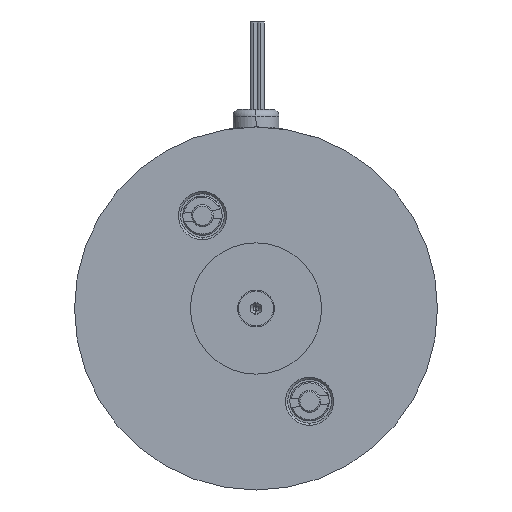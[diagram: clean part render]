
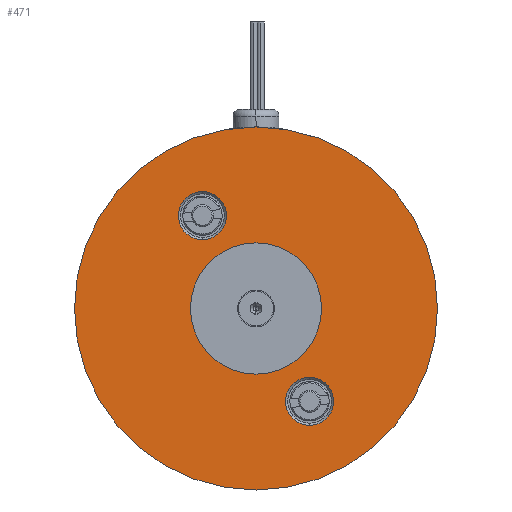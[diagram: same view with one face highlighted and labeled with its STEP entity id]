
A CAD part, left-side view. The second image highlights one B-rep face of the part: STEP entity #471.
In plain terms, the highlighted planar face has unit normal (-1, 0, 0).
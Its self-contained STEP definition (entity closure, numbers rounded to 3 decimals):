
#7 = EDGE_CURVE ( 'NONE', #14, #16, #1207, .T. ) ;
#14 = VERTEX_POINT ( 'NONE', #1256 ) ;
#16 = VERTEX_POINT ( 'NONE', #1255 ) ;
#23 = VERTEX_POINT ( 'NONE', #1246 ) ;
#25 = EDGE_CURVE ( 'NONE', #23, #28, #1288, .T. ) ;
#28 = VERTEX_POINT ( 'NONE', #1279 ) ;
#455 = ORIENTED_EDGE ( 'NONE', *, *, #7, .F. ) ;
#456 = ORIENTED_EDGE ( 'NONE', *, *, #457, .F. ) ;
#457 = EDGE_CURVE ( 'NONE', #16, #14, #2517, .T. ) ;
#458 = EDGE_LOOP ( 'NONE', ( #459, #512 ) ) ;
#459 = ORIENTED_EDGE ( 'NONE', *, *, #25, .T. ) ;
#470 = EDGE_CURVE ( 'NONE', #28, #23, #2574, .T. ) ;
#471 = ADVANCED_FACE ( 'NONE', ( #2570, #2569, #2568, #2567 ), #2622, .F. ) ;
#472 = EDGE_LOOP ( 'NONE', ( #473, #524 ) ) ;
#473 = ORIENTED_EDGE ( 'NONE', *, *, #1098, .T. ) ;
#512 = ORIENTED_EDGE ( 'NONE', *, *, #470, .T. ) ;
#524 = ORIENTED_EDGE ( 'NONE', *, *, #525, .T. ) ;
#525 = EDGE_CURVE ( 'NONE', #1103, #1101, #2774, .T. ) ;
#526 = EDGE_LOOP ( 'NONE', ( #527, #528 ) ) ;
#527 = ORIENTED_EDGE ( 'NONE', *, *, #1046, .T. ) ;
#528 = ORIENTED_EDGE ( 'NONE', *, *, #529, .T. ) ;
#529 = EDGE_CURVE ( 'NONE', #1048, #1047, #2768, .T. ) ;
#530 = EDGE_LOOP ( 'NONE', ( #455, #456 ) ) ;
#1046 = EDGE_CURVE ( 'NONE', #1047, #1048, #4447, .T. ) ;
#1047 = VERTEX_POINT ( 'NONE', #4442 ) ;
#1048 = VERTEX_POINT ( 'NONE', #4441 ) ;
#1098 = EDGE_CURVE ( 'NONE', #1101, #1103, #4562, .T. ) ;
#1101 = VERTEX_POINT ( 'NONE', #4557 ) ;
#1103 = VERTEX_POINT ( 'NONE', #4552 ) ;
#1203 = DIRECTION ( 'NONE',  ( 0., 0., 1. ) ) ;
#1204 = DIRECTION ( 'NONE',  ( -1., 0., 0. ) ) ;
#1205 = CARTESIAN_POINT ( 'NONE',  ( -112., 0., 0. ) ) ;
#1206 = AXIS2_PLACEMENT_3D ( 'NONE', #1205, #1204, #1203 ) ;
#1207 = CIRCLE ( 'NONE', #1206, 15. ) ;
#1246 = CARTESIAN_POINT ( 'NONE',  ( -112., 0., 41.5 ) ) ;
#1255 = CARTESIAN_POINT ( 'NONE',  ( -112., 0., -15. ) ) ;
#1256 = CARTESIAN_POINT ( 'NONE',  ( -112., 0., 15. ) ) ;
#1279 = CARTESIAN_POINT ( 'NONE',  ( -112., 0., -41.5 ) ) ;
#1280 = DIRECTION ( 'NONE',  ( 0., 0., 1. ) ) ;
#1281 = DIRECTION ( 'NONE',  ( -1., 0., 0. ) ) ;
#1282 = CARTESIAN_POINT ( 'NONE',  ( -112., 0., 0. ) ) ;
#1283 = AXIS2_PLACEMENT_3D ( 'NONE', #1282, #1281, #1280 ) ;
#1288 = CIRCLE ( 'NONE', #1283, 41.5 ) ;
#2513 = DIRECTION ( 'NONE',  ( 0., 0., 1. ) ) ;
#2514 = DIRECTION ( 'NONE',  ( -1., 0., 0. ) ) ;
#2515 = CARTESIAN_POINT ( 'NONE',  ( -112., 0., 0. ) ) ;
#2516 = AXIS2_PLACEMENT_3D ( 'NONE', #2515, #2514, #2513 ) ;
#2517 = CIRCLE ( 'NONE', #2516, 15. ) ;
#2544 = CARTESIAN_POINT ( 'NONE',  ( -112., 0., 0. ) ) ;
#2567 = FACE_OUTER_BOUND ( 'NONE', #458, .T. ) ;
#2568 = FACE_BOUND ( 'NONE', #530, .T. ) ;
#2569 = FACE_BOUND ( 'NONE', #526, .T. ) ;
#2570 = FACE_BOUND ( 'NONE', #472, .T. ) ;
#2571 = DIRECTION ( 'NONE',  ( 0., 0., 1. ) ) ;
#2572 = DIRECTION ( 'NONE',  ( -1., 0., 0. ) ) ;
#2573 = AXIS2_PLACEMENT_3D ( 'NONE', #2544, #2572, #2571 ) ;
#2574 = CIRCLE ( 'NONE', #2573, 41.5 ) ;
#2617 = DIRECTION ( 'NONE',  ( 0., 0., -1. ) ) ;
#2618 = DIRECTION ( 'NONE',  ( 1., 0., 0. ) ) ;
#2619 = CARTESIAN_POINT ( 'NONE',  ( -112., 41.5, 0. ) ) ;
#2620 = AXIS2_PLACEMENT_3D ( 'NONE', #2619, #2618, #2617 ) ;
#2622 = PLANE ( 'NONE',  #2620 ) ;
#2765 = DIRECTION ( 'NONE',  ( 1., 0., 0. ) ) ;
#2766 = CARTESIAN_POINT ( 'NONE',  ( -112., 12.25, 21.218 ) ) ;
#2767 = AXIS2_PLACEMENT_3D ( 'NONE', #2766, #2765, #2821 ) ;
#2768 = CIRCLE ( 'NONE', #2767, 5.5 ) ;
#2770 = DIRECTION ( 'NONE',  ( 0., 0., -1. ) ) ;
#2771 = DIRECTION ( 'NONE',  ( 1., 0., 0. ) ) ;
#2772 = CARTESIAN_POINT ( 'NONE',  ( -112., -12.25, -21.218 ) ) ;
#2773 = AXIS2_PLACEMENT_3D ( 'NONE', #2772, #2771, #2770 ) ;
#2774 = CIRCLE ( 'NONE', #2773, 5.5 ) ;
#2821 = DIRECTION ( 'NONE',  ( 0., 0., -1. ) ) ;
#4441 = CARTESIAN_POINT ( 'NONE',  ( -112., 12.25, 15.718 ) ) ;
#4442 = CARTESIAN_POINT ( 'NONE',  ( -112., 12.25, 26.718 ) ) ;
#4443 = DIRECTION ( 'NONE',  ( 0., 0., -1. ) ) ;
#4444 = DIRECTION ( 'NONE',  ( 1., 0., 0. ) ) ;
#4445 = CARTESIAN_POINT ( 'NONE',  ( -112., 12.25, 21.218 ) ) ;
#4446 = AXIS2_PLACEMENT_3D ( 'NONE', #4445, #4444, #4443 ) ;
#4447 = CIRCLE ( 'NONE', #4446, 5.5 ) ;
#4552 = CARTESIAN_POINT ( 'NONE',  ( -112., -12.25, -26.718 ) ) ;
#4557 = CARTESIAN_POINT ( 'NONE',  ( -112., -12.25, -15.718 ) ) ;
#4558 = DIRECTION ( 'NONE',  ( 0., 0., -1. ) ) ;
#4559 = DIRECTION ( 'NONE',  ( 1., 0., 0. ) ) ;
#4560 = CARTESIAN_POINT ( 'NONE',  ( -112., -12.25, -21.218 ) ) ;
#4561 = AXIS2_PLACEMENT_3D ( 'NONE', #4560, #4559, #4558 ) ;
#4562 = CIRCLE ( 'NONE', #4561, 5.5 ) ;
